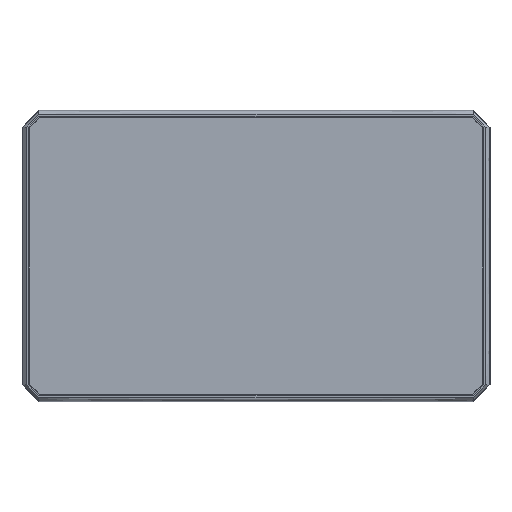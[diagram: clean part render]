
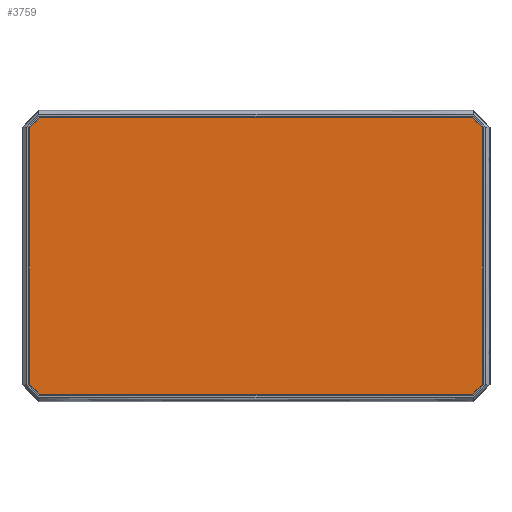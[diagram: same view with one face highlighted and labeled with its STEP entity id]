
A CAD part, top view. The second image highlights one B-rep face of the part: STEP entity #3759.
In plain terms, the highlighted planar face has unit normal (0, 0, 1).
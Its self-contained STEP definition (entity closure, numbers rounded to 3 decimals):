
#3759=ADVANCED_FACE('',(#7828),#55257,.T.);
#7828=FACE_OUTER_BOUND('',#11897,.T.);
#11897=EDGE_LOOP('',(#16195,#16196,#16197,#16198,#16199,#16200,#16201,#16202));
#16195=ORIENTED_EDGE('',*,*,#37705,.F.);
#16196=ORIENTED_EDGE('',*,*,#37702,.F.);
#16197=ORIENTED_EDGE('',*,*,#37699,.F.);
#16198=ORIENTED_EDGE('',*,*,#37696,.F.);
#16199=ORIENTED_EDGE('',*,*,#37693,.F.);
#16200=ORIENTED_EDGE('',*,*,#37690,.F.);
#16201=ORIENTED_EDGE('',*,*,#37687,.F.);
#16202=ORIENTED_EDGE('',*,*,#37683,.F.);
#37683=EDGE_CURVE('',#48447,#48448,#58137,.T.);
#37687=EDGE_CURVE('',#48448,#48451,#58141,.T.);
#37690=EDGE_CURVE('',#48451,#48453,#58144,.T.);
#37693=EDGE_CURVE('',#48453,#48455,#58147,.T.);
#37696=EDGE_CURVE('',#48455,#48457,#58150,.T.);
#37699=EDGE_CURVE('',#48457,#48459,#58153,.T.);
#37702=EDGE_CURVE('',#48459,#48461,#58156,.T.);
#37705=EDGE_CURVE('',#48461,#48447,#58159,.T.);
#48447=VERTEX_POINT('',#73538);
#48448=VERTEX_POINT('',#73539);
#48451=VERTEX_POINT('',#73542);
#48453=VERTEX_POINT('',#73544);
#48455=VERTEX_POINT('',#73546);
#48457=VERTEX_POINT('',#73548);
#48459=VERTEX_POINT('',#73550);
#48461=VERTEX_POINT('',#73552);
#55257=PLANE('',#67387);
#58137=B_SPLINE_CURVE_WITH_KNOTS('',3,(#73554,#73555,#73556,#73557),
 .UNSPECIFIED.,.F.,.F.,(4,4),(-1.,-0.846),.UNSPECIFIED.);
#58141=B_SPLINE_CURVE_WITH_KNOTS('',3,(#73566,#73567,#73568,#73569,#73570,
#73571,#73572),.UNSPECIFIED.,.F.,.F.,(4,3,4),(-0.846,-0.769,
-0.692),.UNSPECIFIED.);
#58144=B_SPLINE_CURVE_WITH_KNOTS('',3,(#73582,#73583,#73584,#73585),
 .UNSPECIFIED.,.F.,.F.,(4,4),(-0.692,-0.615),
 .UNSPECIFIED.);
#58147=B_SPLINE_CURVE_WITH_KNOTS('',3,(#73592,#73593,#73594,#73595,#73596,
#73597,#73598),.UNSPECIFIED.,.F.,.F.,(4,3,4),(-0.615,-0.538,
-0.462),.UNSPECIFIED.);
#58150=B_SPLINE_CURVE_WITH_KNOTS('',3,(#73608,#73609,#73610,#73611),
 .UNSPECIFIED.,.F.,.F.,(4,4),(-0.462,-0.385),
 .UNSPECIFIED.);
#58153=B_SPLINE_CURVE_WITH_KNOTS('',3,(#73618,#73619,#73620,#73621,#73622,
#73623,#73624),.UNSPECIFIED.,.F.,.F.,(4,3,4),(-0.385,-0.308,
-0.231),.UNSPECIFIED.);
#58156=B_SPLINE_CURVE_WITH_KNOTS('',3,(#73634,#73635,#73636,#73637),
 .UNSPECIFIED.,.F.,.F.,(4,4),(-0.231,-0.154),
 .UNSPECIFIED.);
#58159=B_SPLINE_CURVE_WITH_KNOTS('',3,(#73644,#73645,#73646,#73647,#73648,
#73649,#73650),.UNSPECIFIED.,.F.,.F.,(4,3,4),(-0.154,-0.077,
0.),.UNSPECIFIED.);
#67387=AXIS2_PLACEMENT_3D('',#73536,#70079,$);
#70079=DIRECTION('',(0.,0.,1.));
#73536=CARTESIAN_POINT('',(83.447,-50.947,6.08));
#73538=CARTESIAN_POINT('',(-63.857,40.757,6.08));
#73539=CARTESIAN_POINT('',(63.857,40.757,6.08));
#73542=CARTESIAN_POINT('',(66.757,37.857,6.08));
#73544=CARTESIAN_POINT('',(66.757,-37.857,6.08));
#73546=CARTESIAN_POINT('',(63.857,-40.757,6.08));
#73548=CARTESIAN_POINT('',(-63.857,-40.757,6.08));
#73550=CARTESIAN_POINT('',(-66.757,-37.857,6.08));
#73552=CARTESIAN_POINT('',(-66.757,37.857,6.08));
#73554=CARTESIAN_POINT('',(-63.857,40.757,6.08));
#73555=CARTESIAN_POINT('',(-21.286,40.757,6.08));
#73556=CARTESIAN_POINT('',(21.286,40.757,6.08));
#73557=CARTESIAN_POINT('',(63.857,40.757,6.08));
#73566=CARTESIAN_POINT('',(63.857,40.757,6.08));
#73567=CARTESIAN_POINT('',(64.739,40.757,6.08));
#73568=CARTESIAN_POINT('',(65.485,40.351,6.08));
#73569=CARTESIAN_POINT('',(66.029,39.67,6.08));
#73570=CARTESIAN_POINT('',(66.405,39.201,6.08));
#73571=CARTESIAN_POINT('',(66.757,38.47,6.08));
#73572=CARTESIAN_POINT('',(66.757,37.857,6.08));
#73582=CARTESIAN_POINT('',(66.757,37.857,6.08));
#73583=CARTESIAN_POINT('',(66.757,12.619,6.08));
#73584=CARTESIAN_POINT('',(66.757,-12.619,6.08));
#73585=CARTESIAN_POINT('',(66.757,-37.857,6.08));
#73592=CARTESIAN_POINT('',(66.757,-37.857,6.08));
#73593=CARTESIAN_POINT('',(66.757,-38.739,6.08));
#73594=CARTESIAN_POINT('',(66.351,-39.485,6.08));
#73595=CARTESIAN_POINT('',(65.67,-40.029,6.08));
#73596=CARTESIAN_POINT('',(65.201,-40.405,6.08));
#73597=CARTESIAN_POINT('',(64.47,-40.757,6.08));
#73598=CARTESIAN_POINT('',(63.857,-40.757,6.08));
#73608=CARTESIAN_POINT('',(63.857,-40.757,6.08));
#73609=CARTESIAN_POINT('',(21.286,-40.757,6.08));
#73610=CARTESIAN_POINT('',(-21.286,-40.757,6.08));
#73611=CARTESIAN_POINT('',(-63.857,-40.757,6.08));
#73618=CARTESIAN_POINT('',(-63.857,-40.757,6.08));
#73619=CARTESIAN_POINT('',(-64.739,-40.757,6.08));
#73620=CARTESIAN_POINT('',(-65.485,-40.351,6.08));
#73621=CARTESIAN_POINT('',(-66.029,-39.67,6.08));
#73622=CARTESIAN_POINT('',(-66.405,-39.201,6.08));
#73623=CARTESIAN_POINT('',(-66.757,-38.47,6.08));
#73624=CARTESIAN_POINT('',(-66.757,-37.857,6.08));
#73634=CARTESIAN_POINT('',(-66.757,-37.857,6.08));
#73635=CARTESIAN_POINT('',(-66.757,-12.619,6.08));
#73636=CARTESIAN_POINT('',(-66.757,12.619,6.08));
#73637=CARTESIAN_POINT('',(-66.757,37.857,6.08));
#73644=CARTESIAN_POINT('',(-66.757,37.857,6.08));
#73645=CARTESIAN_POINT('',(-66.757,38.739,6.08));
#73646=CARTESIAN_POINT('',(-66.351,39.485,6.08));
#73647=CARTESIAN_POINT('',(-65.67,40.029,6.08));
#73648=CARTESIAN_POINT('',(-65.201,40.405,6.08));
#73649=CARTESIAN_POINT('',(-64.47,40.757,6.08));
#73650=CARTESIAN_POINT('',(-63.857,40.757,6.08));
